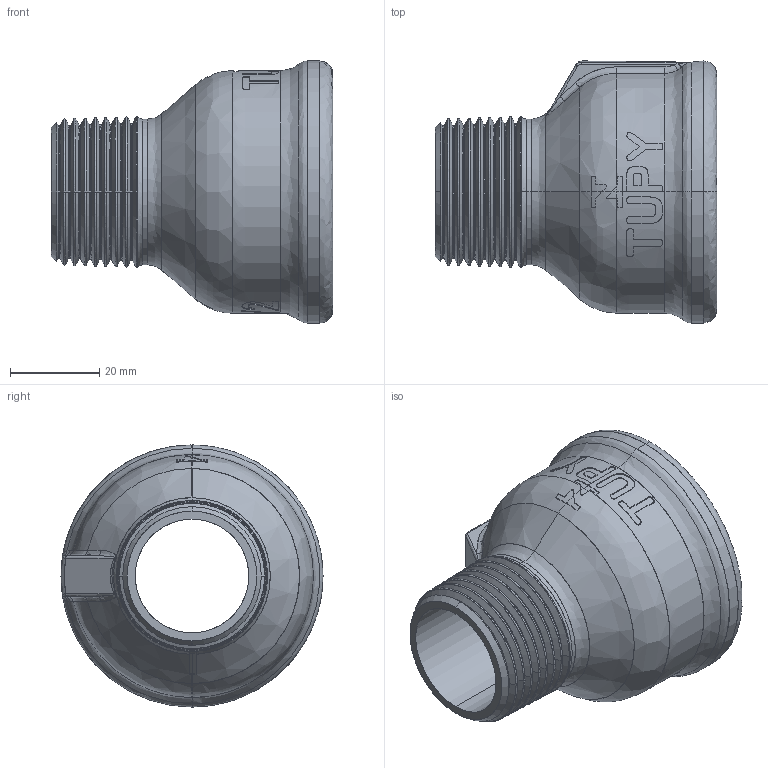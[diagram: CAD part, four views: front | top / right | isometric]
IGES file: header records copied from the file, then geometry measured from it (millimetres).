
Start section: SolidWorks IGES file using analytic representation for surfaces
Global section: file name: C:\Users\Joel Rosa\Desktop\Tubulação\12-35-OK\12-35-041.IGS; native system: SolidWorks 2011; preprocessor: SolidWorks 2011; author: Joel Rosa; date: 121209.031445; units: millimetre
Bounding box: 63 x 58.6 x 58.6 mm (x, y, z)
Surface area: 21248.3 mm2 (no closed solid volume)
Topology: 0 solids, 0 shells, 365 faces, 3055 edges, 3054 vertices
Faces by surface type: bspline 254, revolution 111
